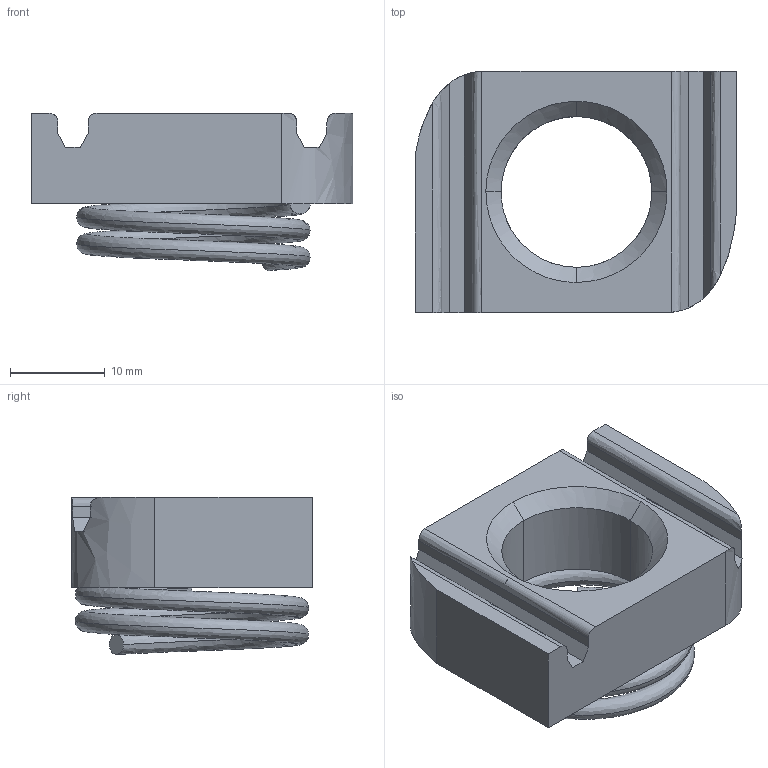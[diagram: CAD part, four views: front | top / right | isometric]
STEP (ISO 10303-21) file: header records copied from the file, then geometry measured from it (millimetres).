
FILE_DESCRIPTION(('TurboCAD Mac Pro'),'Build 980');
FILE_NAME('P4012S.stp',' ',(''),(''),'ACIS Interop','IMSI','TurboCAD Mac Pro BY IMSI, INCORPORATED');
FILE_SCHEMA(('automotive_design'));
Length unit declared in the file: inch
Products named in the file (2): 1; 2
Bounding box: 33.88 x 25.4 x 16.56 mm (x, y, z)
Volume: 5923.5 mm3; surface area: 3946.3 mm2
Topology: 2 solids, 2 shells, 41 faces, 105 edges, 68 vertices
Faces by surface type: plane 25, bspline 16
Entity records: 3899 total; most frequent: CARTESIAN_POINT 2130, ORIENTED_EDGE 210, STYLED_ITEM 147, PRESENTATION_STYLE_ASSIGNMENT 147, COLOUR_RGB 147, DIRECTION 122, EDGE_CURVE 105, CURVE_STYLE 104
